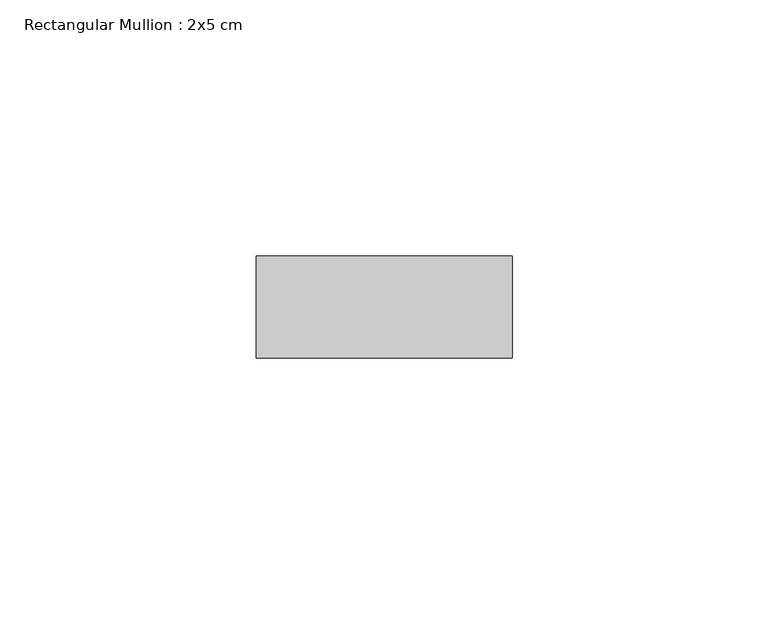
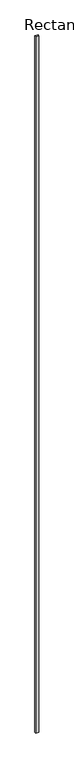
"""IFC4 building model written with IfcOpenShell, lengths in millimetres: member geometry, Rectangular Mullion : 2x5 cm."""

from ifc_helpers import new_model, si_unit, frame, origin, place, context, project, spatial, polyline, outline, extrude, source, transform, mapped, element, save


def rectangular_mullion_2x5_cm_9298c0f4(model_context):
    return source(origin(), model_context, "Body", "SweptSolid", [
        extrude(outline(polyline([(50.0, 20.0), (50.0, 0.0), (0.0, 0.0), (0.0, 20.0), (50.0, 20.0)])), frame((0.0, 0.0, -11226.6231429), z_axis=(0.0, 0.0, 1.0), x_axis=(1.0, 0.0, 0.0)), (0.0, 0.0, 1.0), 11226.6231429),
    ])


if __name__ == "__main__":
    model = new_model("IFC4")
    model_context = context("Model", 3, world=origin())
    ifc_project = project(units=[si_unit("LENGTHUNIT", "METRE", prefix="MILLI")], contexts=[model_context])
    site = spatial("IfcSite", under=ifc_project)
    building = spatial("IfcBuilding", under=site)
    placement = place(None, origin())
    rectangular_mullion_2x5_cm_shape = rectangular_mullion_2x5_cm_9298c0f4(model_context)
    element("IfcMember", 1, ObjectType="Rectangular Mullion : 2x5 cm", at=placement, inside=building, context=model_context, shape_type="MappedRepresentation", body=[
        mapped(rectangular_mullion_2x5_cm_shape, transform((0.0, 0.0, 0.0), x_axis=(1.0, 0.0, 0.0), y_axis=(0.0, 1.0, 0.0), z_axis=(0.0, 0.0, 1.0))),
    ])
    save(model, "model.ifc")
